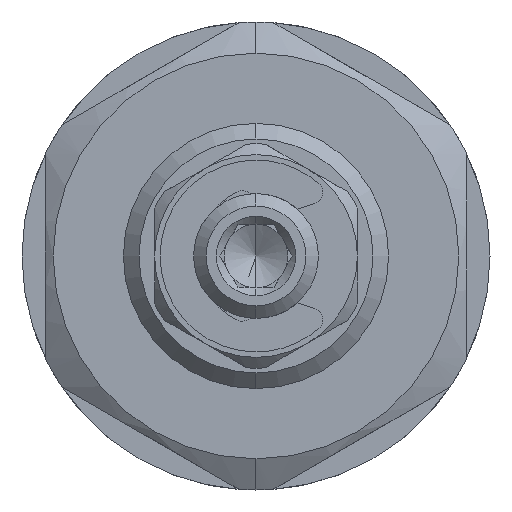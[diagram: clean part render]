
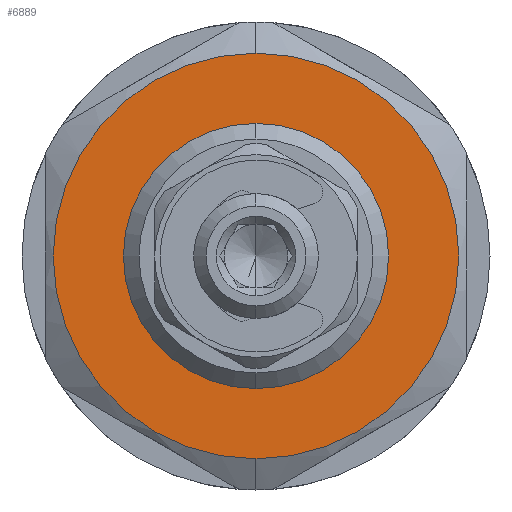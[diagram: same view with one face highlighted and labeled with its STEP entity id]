
A CAD part, left-side view. The second image highlights one B-rep face of the part: STEP entity #6889.
In plain terms, the highlighted planar face has unit normal (-1, 0, 0).
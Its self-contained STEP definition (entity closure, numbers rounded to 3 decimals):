
#1 = DIRECTION ( 'NONE',  ( 0., 0., 1. ) ) ;
#484 = DIRECTION ( 'NONE',  ( -1., 0., 0. ) ) ;
#556 = VERTEX_POINT ( 'NONE', #1188 ) ;
#1188 = CARTESIAN_POINT ( 'NONE',  ( 13., 0., -13. ) ) ;
#1971 = FACE_BOUND ( 'NONE', #7087, .T. ) ;
#2074 = CARTESIAN_POINT ( 'NONE',  ( 13., 0., 0. ) ) ;
#2122 = DIRECTION ( 'NONE',  ( -1., 0., 0. ) ) ;
#2152 = DIRECTION ( 'NONE',  ( 0., 0., 1. ) ) ;
#2222 = CIRCLE ( 'NONE', #5012, 13. ) ;
#2592 = CARTESIAN_POINT ( 'NONE',  ( 13., 0., -8.5 ) ) ;
#2794 = CARTESIAN_POINT ( 'NONE',  ( 13., 0., 0. ) ) ;
#2830 = CARTESIAN_POINT ( 'NONE',  ( 13., 0., 0. ) ) ;
#2991 = CARTESIAN_POINT ( 'NONE',  ( 13., 0., 13. ) ) ;
#3055 = CARTESIAN_POINT ( 'NONE',  ( 13., 0., 8.5 ) ) ;
#3090 = ORIENTED_EDGE ( 'NONE', *, *, #4404, .F. ) ;
#3678 = DIRECTION ( 'NONE',  ( 0., 0., 1. ) ) ;
#3844 = VERTEX_POINT ( 'NONE', #3055 ) ;
#4059 = FACE_OUTER_BOUND ( 'NONE', #7690, .T. ) ;
#4089 = AXIS2_PLACEMENT_3D ( 'NONE', #7123, #484, #4811 ) ;
#4404 = EDGE_CURVE ( 'NONE', #3844, #7215, #9163, .T. ) ;
#4534 = AXIS2_PLACEMENT_3D ( 'NONE', #2794, #8045, #9505 ) ;
#4658 = EDGE_CURVE ( 'NONE', #556, #9493, #7012, .T. ) ;
#4811 = DIRECTION ( 'NONE',  ( 0., 0., 1. ) ) ;
#4853 = CIRCLE ( 'NONE', #4089, 8.5 ) ;
#5012 = AXIS2_PLACEMENT_3D ( 'NONE', #2074, #8108, #1 ) ;
#5334 = EDGE_CURVE ( 'NONE', #7215, #3844, #4853, .T. ) ;
#5643 = AXIS2_PLACEMENT_3D ( 'NONE', #2830, #9444, #2152 ) ;
#5697 = PLANE ( 'NONE',  #6655 ) ;
#6493 = ORIENTED_EDGE ( 'NONE', *, *, #4658, .T. ) ;
#6655 = AXIS2_PLACEMENT_3D ( 'NONE', #8105, #2122, #3678 ) ;
#6889 = ADVANCED_FACE ( 'NONE', ( #4059, #1971 ), #5697, .T. ) ;
#7012 = CIRCLE ( 'NONE', #5643, 13. ) ;
#7087 = EDGE_LOOP ( 'NONE', ( #3090, #7734 ) ) ;
#7123 = CARTESIAN_POINT ( 'NONE',  ( 13., 0., 0. ) ) ;
#7215 = VERTEX_POINT ( 'NONE', #2592 ) ;
#7690 = EDGE_LOOP ( 'NONE', ( #6493, #8144 ) ) ;
#7734 = ORIENTED_EDGE ( 'NONE', *, *, #5334, .F. ) ;
#8045 = DIRECTION ( 'NONE',  ( -1., 0., 0. ) ) ;
#8105 = CARTESIAN_POINT ( 'NONE',  ( 13., 8.5, 0. ) ) ;
#8108 = DIRECTION ( 'NONE',  ( -1., 0., 0. ) ) ;
#8144 = ORIENTED_EDGE ( 'NONE', *, *, #8620, .T. ) ;
#8620 = EDGE_CURVE ( 'NONE', #9493, #556, #2222, .T. ) ;
#9163 = CIRCLE ( 'NONE', #4534, 8.5 ) ;
#9444 = DIRECTION ( 'NONE',  ( -1., 0., 0. ) ) ;
#9493 = VERTEX_POINT ( 'NONE', #2991 ) ;
#9505 = DIRECTION ( 'NONE',  ( 0., 0., 1. ) ) ;
